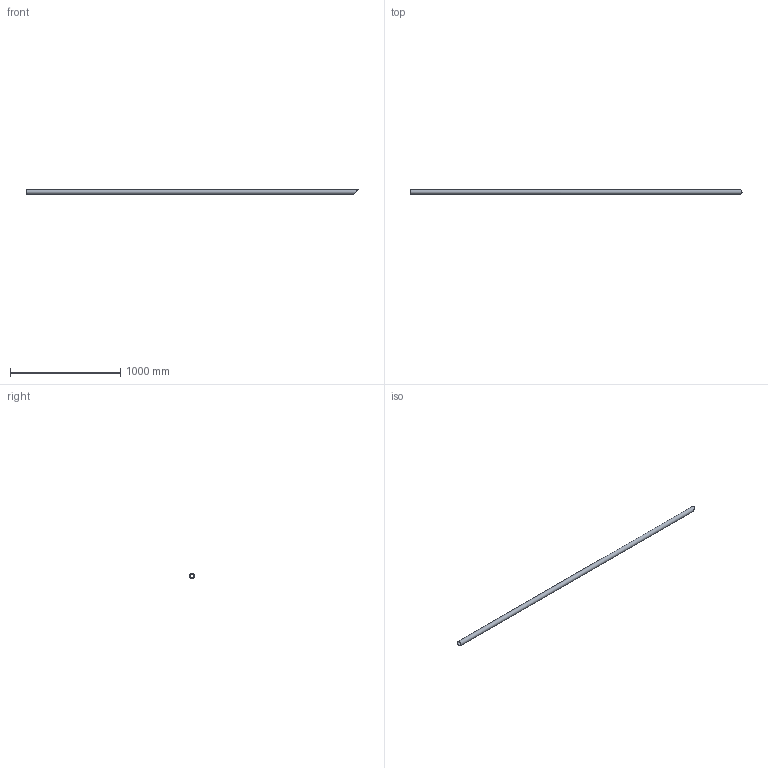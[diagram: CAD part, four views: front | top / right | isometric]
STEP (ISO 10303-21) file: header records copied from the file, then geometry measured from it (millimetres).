
FILE_DESCRIPTION(/* description */ (''),/* implementation_level */ '2;1');
FILE_NAME(/* name */ 'Pos112-Constructie buis 42.4x2.6-S235JRH-4st',/* time_stamp */ '2024-08-06T11:42:42+02:00',/* author */ (''),/* organization */ (''),/* preprocessor_version */ 'ST-DEVELOPER v16.5',/* originating_system */ 'HiCAD 2024 2901.2 Build 361',/* authorisation */ '');
FILE_SCHEMA (('AUTOMOTIVE_DESIGN { 1 0 10303 214 1 1 1 1 }'));
Length unit declared in the file: millimetre
Products named in the file (1): Pos112-Constructie buis 42.4x2.6-S235JRH-4st
Bounding box: 3017.19 x 42.4 x 42.4 mm (x, y, z)
Volume: 973975.4 mm3; surface area: 749996.9 mm2
Topology: 1 solids, 1 shells, 4 faces, 8 edges, 6 vertices
Faces by surface type: cylinder 2, plane 2
Full cylindrical faces by diameter (mm): 37.2 x1, 42.4 x1
Entity records: 146 total; most frequent: DIRECTION 16, CARTESIAN_POINT 12, PRESENTATION_STYLE_ASSIGNMENT 9, COLOUR_RGB 9, DRAUGHTING_PRE_DEFINED_CURVE_FONT 8, CURVE_STYLE 8, OVER_RIDING_STYLED_ITEM 8, ORIENTED_EDGE 8
